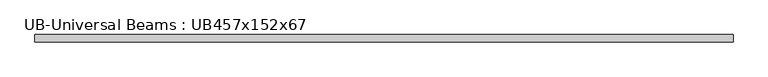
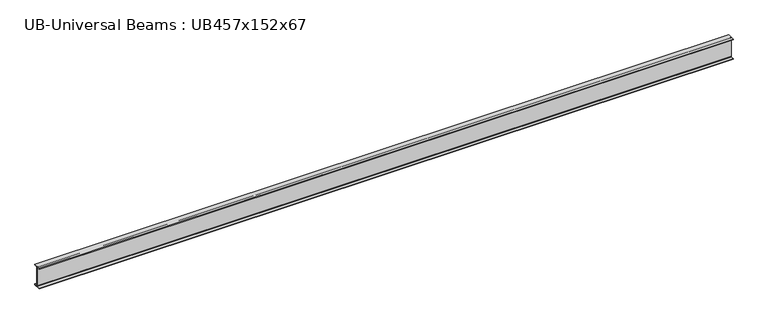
"""IFC4 building model written with IfcOpenShell, lengths in millimetres: beam geometry, UB-Universal Beams : UB457x152x67."""

from ifc_helpers import new_model, si_unit, point, frame, frame_2d, origin, place, context, project, spatial, polyline, circle_curve, trimmed, segment, composite_curve, outline, extrude, source, transform, mapped, element, save


def ub_universal_beams_ub457x152x67_1d55edab(model_context):
    return source(origin(), model_context, "Body", "SweptSolid", [
        extrude(outline(composite_curve([segment(polyline([(76.9, -214.0), (76.9, -229.0), (-76.9, -229.0), (-76.9, -214.0), (-14.7, -214.0)]), True, "CONTINUOUS"), segment(trimmed(circle_curve(frame_2d((-14.7, -203.8)), 10.2), [point((-14.7, -214.0))], [point((-4.5, -203.8))], True, "CARTESIAN"), True, "CONTINUOUS"), segment(polyline([(-4.5, -203.8), (-4.5, 203.8)]), True, "CONTINUOUS"), segment(trimmed(circle_curve(frame_2d((-14.7, 203.8)), 10.2), [point((-4.5, 203.8))], [point((-14.7, 214.0))], True, "CARTESIAN"), True, "CONTINUOUS"), segment(polyline([(-14.7, 214.0), (-76.9, 214.0), (-76.9, 229.0), (76.9, 229.0), (76.9, 214.0), (14.7, 214.0)]), True, "CONTINUOUS"), segment(trimmed(circle_curve(frame_2d((14.7, 203.8)), 10.2), [point((14.7, 214.0))], [point((4.5, 203.8))], True, "CARTESIAN"), True, "CONTINUOUS"), segment(polyline([(4.5, 203.8), (4.5, -203.8)]), True, "CONTINUOUS"), segment(trimmed(circle_curve(frame_2d((14.7, -203.8)), 10.2), [point((4.5, -203.8))], [point((14.7, -214.0))], True, "CARTESIAN"), True, "CONTINUOUS"), segment(polyline([(14.7, -214.0), (76.9, -214.0)]), True, "CONTINUOUS")], self_intersect=False)), frame((-7410.4, 0.0, 0.0), z_axis=(1.0, 0.0, 0.0), x_axis=(0.0, 1.0, 0.0)), (0.0, 0.0, 1.0), 14790.7),
    ])


if __name__ == "__main__":
    model = new_model("IFC4")
    model_context = context("Model", 3, world=origin())
    ifc_project = project(units=[si_unit("LENGTHUNIT", "METRE", prefix="MILLI")], contexts=[model_context])
    site = spatial("IfcSite", under=ifc_project)
    building = spatial("IfcBuilding", under=site)
    placement = place(None, origin())
    ub_universal_beams_ub457x152x67_shape = ub_universal_beams_ub457x152x67_1d55edab(model_context)
    element("IfcBeam", 1, ObjectType="UB-Universal Beams : UB457x152x67", at=placement, inside=building, context=model_context, shape_type="MappedRepresentation", body=[
        mapped(ub_universal_beams_ub457x152x67_shape, transform((0.0, 0.0, 0.0), x_axis=(1.0, 0.0, 0.0), y_axis=(0.0, 1.0, 0.0), z_axis=(0.0, 0.0, 1.0))),
    ])
    save(model, "model.ifc")
